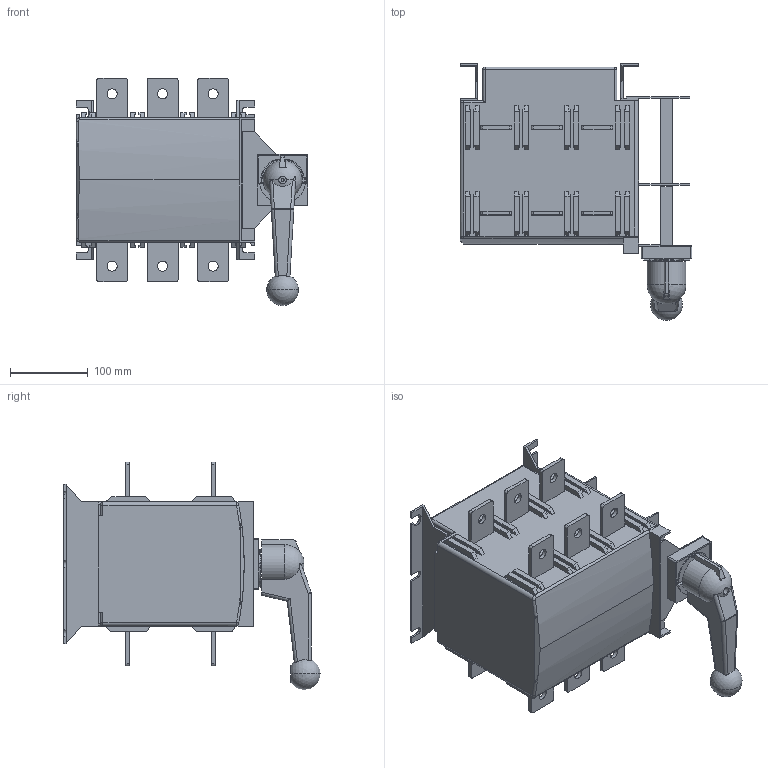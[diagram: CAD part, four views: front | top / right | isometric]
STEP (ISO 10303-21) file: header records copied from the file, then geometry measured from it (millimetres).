
FILE_DESCRIPTION((''),'2;1');
FILE_NAME('ASM000KG_ASM','2024-01-24T',('zhuanghy'),(''),'CREO PARAMETRIC BY PTC INC, 2018070','CREO PARAMETRIC BY PTC INC, 2018070','');
FILE_SCHEMA(('AUTOMOTIVE_DESIGN { 1 0 10303 214 1 1 1 1 }'));
Length unit declared in the file: millimetre
Products named in the file (3): PRT0001; NH40-315_630-S_202107; ASM000KG_ASM
Assembly tree (2 placements, depth 2):
  ASM000KG_ASM
    PRT0001
    NH40-315_630-S_202107
Bounding box: 298.75 x 330.3 x 292.93 mm (x, y, z)
Volume: 8524977.9 mm3; surface area: 457991.5 mm2
Topology: 2 solids, 2 shells, 695 faces, 1863 edges, 1221 vertices
Faces by surface type: plane 537, cylinder 113, extrusion 25, sphere 10, bspline 6, torus 4
Entity records: 22432 total; most frequent: CARTESIAN_POINT 4634, ORIENTED_EDGE 3706, DIRECTION 3352, EDGE_CURVE 1853, VECTOR 1548, LINE 1523, VERTEX_POINT 1221, AXIS2_PLACEMENT_3D 902
